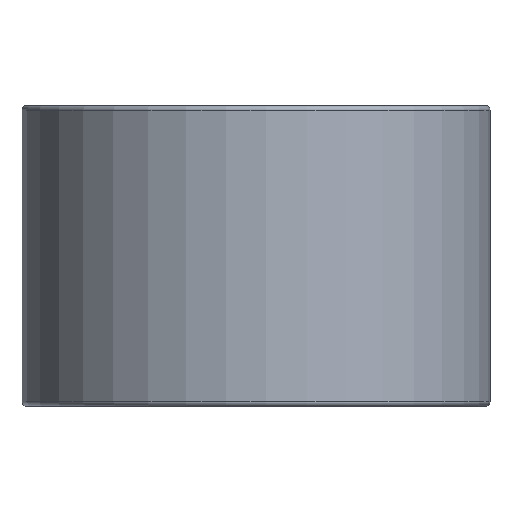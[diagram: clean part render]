
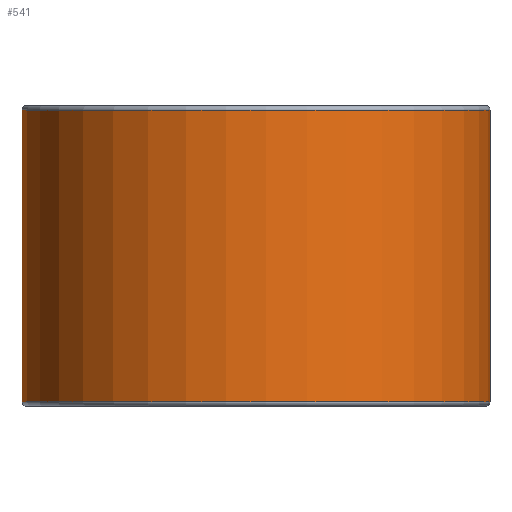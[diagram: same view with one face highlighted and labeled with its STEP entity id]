
A CAD part, front view. The second image highlights one B-rep face of the part: STEP entity #541.
In plain terms, the highlighted cylindrical face has radius 26.5 mm (diameter 53 mm), a full revolution.
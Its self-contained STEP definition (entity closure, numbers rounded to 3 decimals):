
#541=ADVANCED_FACE('',(#643,#644),#617,.T.);
#617=CYLINDRICAL_SURFACE('',#1412,26.5);
#643=FACE_BOUND('',#723,.T.);
#644=FACE_BOUND('',#724,.T.);
#723=EDGE_LOOP('',(#843));
#724=EDGE_LOOP('',(#844));
#843=ORIENTED_EDGE('',*,*,#1207,.T.);
#844=ORIENTED_EDGE('',*,*,#1208,.T.);
#1107=VERTEX_POINT('',#1920);
#1108=VERTEX_POINT('',#1922);
#1207=EDGE_CURVE('',#1107,#1107,#1339,.T.);
#1208=EDGE_CURVE('',#1108,#1108,#1340,.T.);
#1339=CIRCLE('',#1410,26.5);
#1340=CIRCLE('',#1411,26.5);
#1410=AXIS2_PLACEMENT_3D('',#1919,#1564,#1565);
#1411=AXIS2_PLACEMENT_3D('',#1921,#1566,#1567);
#1412=AXIS2_PLACEMENT_3D('',#1923,#1568,#1569);
#1564=DIRECTION('',(0.,0.,-1.));
#1565=DIRECTION('',(1.,0.,0.));
#1566=DIRECTION('',(0.,0.,1.));
#1567=DIRECTION('',(1.,0.,0.));
#1568=DIRECTION('',(0.,0.,-1.));
#1569=DIRECTION('',(-1.,0.,0.));
#1919=CARTESIAN_POINT('',(0.,0.,33.5));
#1920=CARTESIAN_POINT('',(26.5,0.,33.5));
#1921=CARTESIAN_POINT('',(0.,0.,0.5));
#1922=CARTESIAN_POINT('',(26.5,0.,0.5));
#1923=CARTESIAN_POINT('',(0.,0.,34.));
